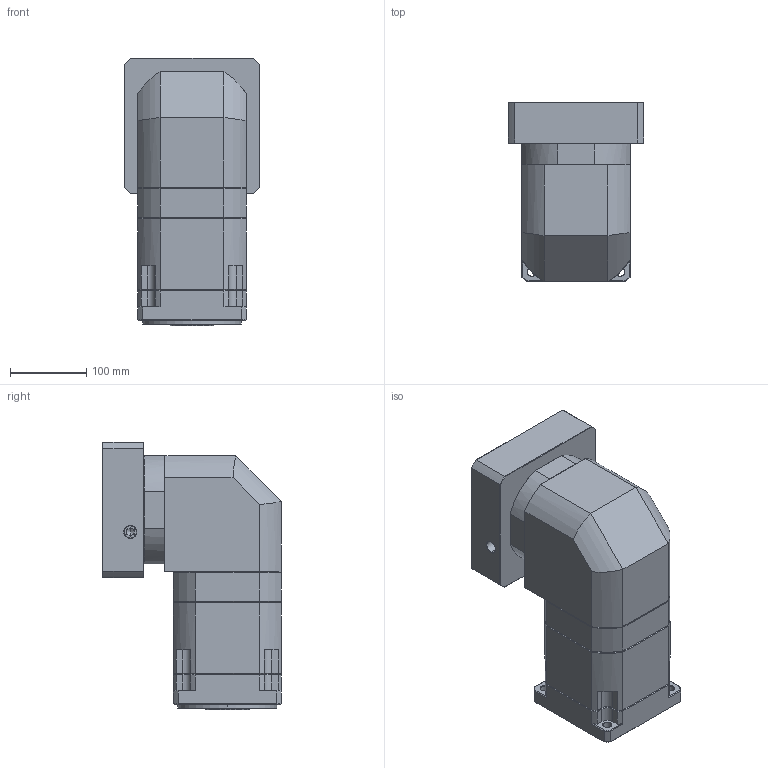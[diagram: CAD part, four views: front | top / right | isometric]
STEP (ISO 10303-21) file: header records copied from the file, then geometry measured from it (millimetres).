
FILE_DESCRIPTION (( 'STEP AP214' ), '1' );
FILE_NAME ('ZBR142A-K35-L3-P2-32-150-185-M10.step', '2023-09-02T07:17:56', ( '' ), ( '' ), 'SwSTEP 2.0', 'SolidWorks 2016', '' );
FILE_SCHEMA (( 'AUTOMOTIVE_DESIGN' ));
Length unit declared in the file: millimetre
Products named in the file (1): ZBR142A-K35-L3-P2-32-150-185-M10
Bounding box: 178 x 235 x 351.7 mm (x, y, z)
Volume: 7377783.3 mm3; surface area: 464134.2 mm2
Topology: 6 solids, 6 shells, 2277 faces, 5971 edges, 3800 vertices
Faces by surface type: plane 1125, bspline 407, cylinder 391, cone 334, torus 20
Entity records: 124740 total; most frequent: CARTESIAN_POINT 46898, ORIENTED_EDGE 11886, DIRECTION 9404, EDGE_CURVE 5943, VECTOR 3864, LINE 3864, VERTEX_POINT 3800, AXIS2_PLACEMENT_3D 2770
